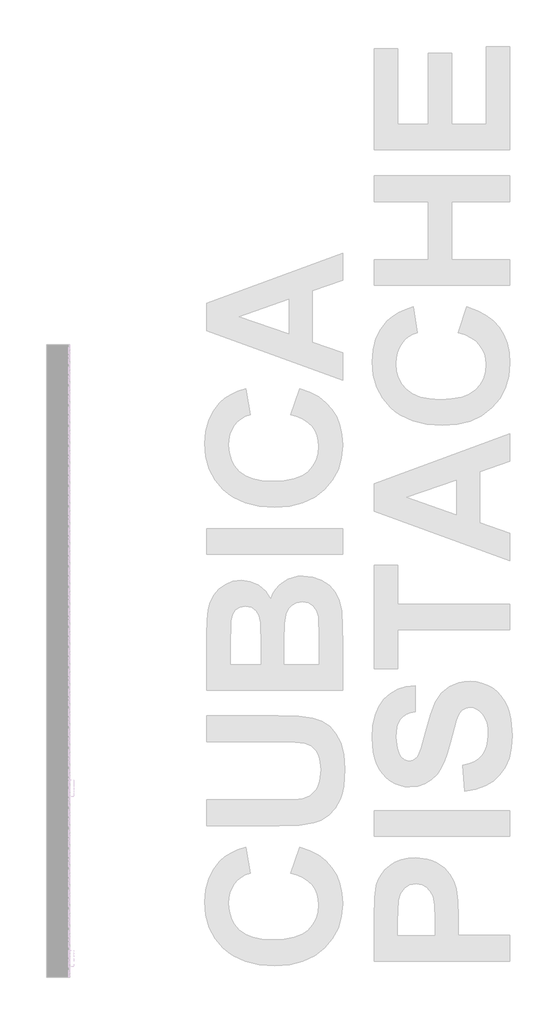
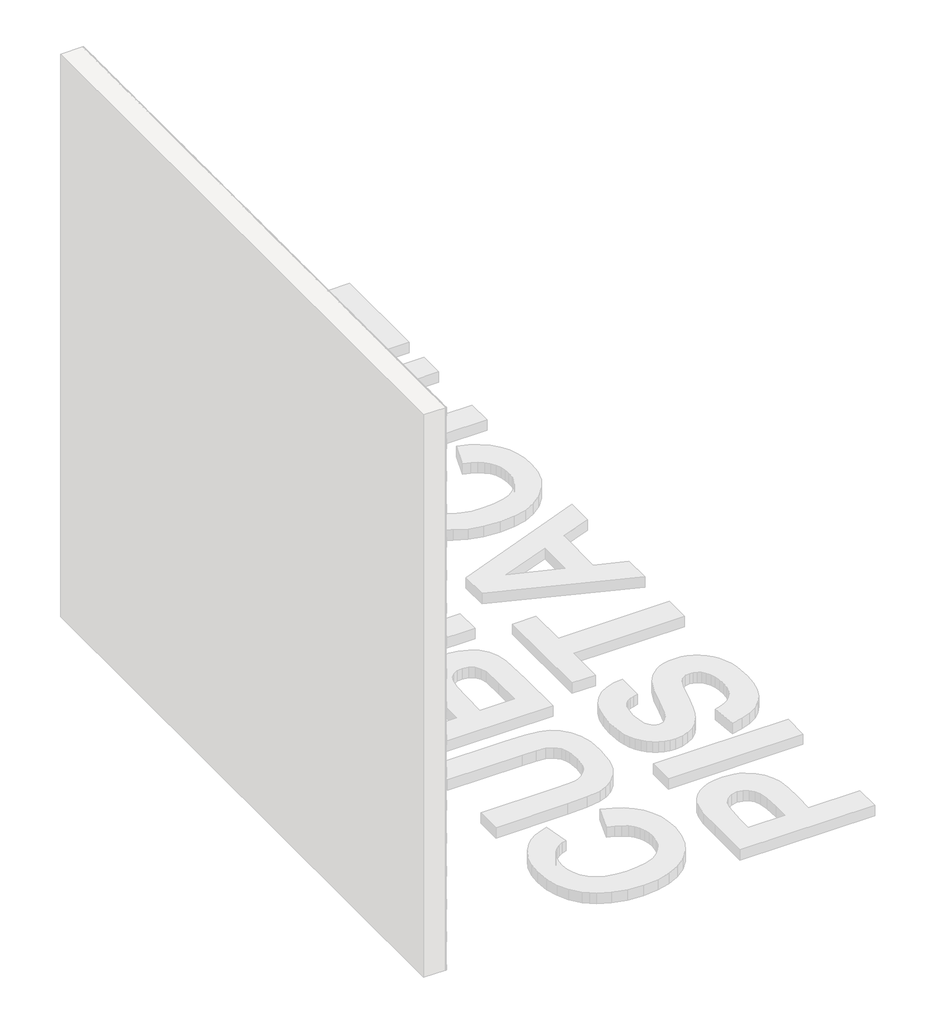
# One storey, part 86 of 121: 145 proxies.
"""IFC4 building model written with IfcOpenShell, lengths in millimetres."""

from ifc_helpers import new_model, si_unit, origin, place, context, project, spatial, transform, mapped, element, save
from components import generic_models_b2b2c5c1, generic_models_9bf73f6f, generic_models_5d175859

model = new_model("IFC4")

# Units and contexts
model_context = context("Model", 3, world=origin())
ifc_project = project(units=[si_unit("LENGTHUNIT", "METRE", prefix="MILLI")], contexts=[model_context])

# Site, building, storey
site = spatial("IfcSite", under=ifc_project)
building = spatial("IfcBuilding", under=site)
storey = spatial("IfcBuildingStorey", under=building, Name="PORTOBELLO - SHOWROOM", Elevation=0.0)

# Proxies
placement = place(None, origin())
generic_models_shape = generic_models_b2b2c5c1(model_context)
element("IfcBuildingElementProxy", 1, Name="PBSHOP - CUBICA PISTACHE 4,8X8,3 : CUBICA PISTACHE - POSIÇÃO 01", ObjectType="PBSHOP - CUBICA PISTACHE 4,8X8,3 : CUBICA PISTACHE - POSIÇÃO 01", at=placement, inside=storey, context=model_context, shape_type="MappedRepresentation", body=[
    mapped(generic_models_shape, transform((150369.5341846, 14022.8778804, 749.8339122), x_axis=(0.0, 1.0, 0.0), y_axis=(0.0, 0.0, 1.0), z_axis=(1.0, 0.0, 0.0))),
])
element("IfcBuildingElementProxy", 2, Name="PBSHOP - CUBICA PISTACHE 4,8X8,3 : CUBICA PISTACHE - POSIÇÃO 01", ObjectType="PBSHOP - CUBICA PISTACHE 4,8X8,3 : CUBICA PISTACHE - POSIÇÃO 01", at=placement, inside=storey, context=model_context, shape_type="MappedRepresentation", body=[
    mapped(generic_models_shape, transform((150369.5341846, 14113.7171496, 749.8339122), x_axis=(0.0, 1.0, 0.0), y_axis=(0.0, 0.0, 1.0), z_axis=(1.0, 0.0, 0.0))),
])
element("IfcBuildingElementProxy", 3, Name="PBSHOP - CUBICA PISTACHE 4,8X8,3 : CUBICA PISTACHE - POSIÇÃO 01", ObjectType="PBSHOP - CUBICA PISTACHE 4,8X8,3 : CUBICA PISTACHE - POSIÇÃO 01", at=placement, inside=storey, context=model_context, shape_type="MappedRepresentation", body=[
    mapped(generic_models_shape, transform((150369.5341846, 14204.5564189, 749.8339122), x_axis=(0.0, 1.0, 0.0), y_axis=(0.0, 0.0, 1.0), z_axis=(1.0, 0.0, 0.0))),
])
element("IfcBuildingElementProxy", 4, Name="PBSHOP - CUBICA PISTACHE 4,8X8,3 : CUBICA PISTACHE - POSIÇÃO 01", ObjectType="PBSHOP - CUBICA PISTACHE 4,8X8,3 : CUBICA PISTACHE - POSIÇÃO 01", at=placement, inside=storey, context=model_context, shape_type="MappedRepresentation", body=[
    mapped(generic_models_shape, transform((150369.5341846, 14295.3956881, 749.8339122), x_axis=(0.0, 1.0, 0.0), y_axis=(0.0, 0.0, 1.0), z_axis=(1.0, 0.0, 0.0))),
])
element("IfcBuildingElementProxy", 5, Name="PBSHOP - CUBICA PISTACHE 4,8X8,3 : CUBICA PISTACHE - POSIÇÃO 01", ObjectType="PBSHOP - CUBICA PISTACHE 4,8X8,3 : CUBICA PISTACHE - POSIÇÃO 01", at=placement, inside=storey, context=model_context, shape_type="MappedRepresentation", body=[
    mapped(generic_models_shape, transform((150369.5341846, 14386.2349573, 749.8339122), x_axis=(0.0, 1.0, 0.0), y_axis=(0.0, 0.0, 1.0), z_axis=(1.0, 0.0, 0.0))),
])
element("IfcBuildingElementProxy", 6, Name="PBSHOP - CUBICA PISTACHE 4,8X8,3 : CUBICA PISTACHE - POSIÇÃO 01", ObjectType="PBSHOP - CUBICA PISTACHE 4,8X8,3 : CUBICA PISTACHE - POSIÇÃO 01", at=placement, inside=storey, context=model_context, shape_type="MappedRepresentation", body=[
    mapped(generic_models_shape, transform((150369.5341846, 14477.0742266, 749.8339122), x_axis=(0.0, 1.0, 0.0), y_axis=(0.0, 0.0, 1.0), z_axis=(1.0, 0.0, 0.0))),
])
element("IfcBuildingElementProxy", 7, Name="PBSHOP - CUBICA PISTACHE 4,8X8,3 : CUBICA PISTACHE - POSIÇÃO 01", ObjectType="PBSHOP - CUBICA PISTACHE 4,8X8,3 : CUBICA PISTACHE - POSIÇÃO 01", at=placement, inside=storey, context=model_context, shape_type="MappedRepresentation", body=[
    mapped(generic_models_shape, transform((150369.5341846, 14567.9134958, 749.8339122), x_axis=(0.0, 1.0, 0.0), y_axis=(0.0, 0.0, 1.0), z_axis=(1.0, 0.0, 0.0))),
])
element("IfcBuildingElementProxy", 8, Name="PBSHOP - CUBICA PISTACHE 4,8X8,3 : CUBICA PISTACHE - POSIÇÃO 01", ObjectType="PBSHOP - CUBICA PISTACHE 4,8X8,3 : CUBICA PISTACHE - POSIÇÃO 01", at=placement, inside=storey, context=model_context, shape_type="MappedRepresentation", body=[
    mapped(generic_models_shape, transform((150369.5341846, 14658.7527651, 749.8339122), x_axis=(0.0, 1.0, 0.0), y_axis=(0.0, 0.0, 1.0), z_axis=(1.0, 0.0, 0.0))),
])
element("IfcBuildingElementProxy", 9, Name="PBSHOP - CUBICA PISTACHE 4,8X8,3 : CUBICA PISTACHE - POSIÇÃO 01", ObjectType="PBSHOP - CUBICA PISTACHE 4,8X8,3 : CUBICA PISTACHE - POSIÇÃO 01", at=placement, inside=storey, context=model_context, shape_type="MappedRepresentation", body=[
    mapped(generic_models_shape, transform((150369.5341846, 14749.5920343, 749.8339122), x_axis=(0.0, 1.0, 0.0), y_axis=(0.0, 0.0, 1.0), z_axis=(1.0, 0.0, 0.0))),
])
element("IfcBuildingElementProxy", 10, Name="PBSHOP - CUBICA PISTACHE 4,8X8,3 : CUBICA PISTACHE - POSIÇÃO 01", ObjectType="PBSHOP - CUBICA PISTACHE 4,8X8,3 : CUBICA PISTACHE - POSIÇÃO 01", at=placement, inside=storey, context=model_context, shape_type="MappedRepresentation", body=[
    mapped(generic_models_shape, transform((150369.5341846, 14840.4313036, 749.8339122), x_axis=(0.0, 1.0, 0.0), y_axis=(0.0, 0.0, 1.0), z_axis=(1.0, 0.0, 0.0))),
])
element("IfcBuildingElementProxy", 11, Name="PBSHOP - CUBICA PISTACHE 4,8X8,3 : CUBICA PISTACHE - POSIÇÃO 01", ObjectType="PBSHOP - CUBICA PISTACHE 4,8X8,3 : CUBICA PISTACHE - POSIÇÃO 01", at=placement, inside=storey, context=model_context, shape_type="MappedRepresentation", body=[
    mapped(generic_models_shape, transform((150369.5341846, 14931.2705728, 749.8339122), x_axis=(0.0, 1.0, 0.0), y_axis=(0.0, 0.0, 1.0), z_axis=(1.0, 0.0, 0.0))),
])
element("IfcBuildingElementProxy", 12, Name="PBSHOP - CUBICA PISTACHE 4,8X8,3 : CUBICA PISTACHE - POSIÇÃO 01", ObjectType="PBSHOP - CUBICA PISTACHE 4,8X8,3 : CUBICA PISTACHE - POSIÇÃO 01", at=placement, inside=storey, context=model_context, shape_type="MappedRepresentation", body=[
    mapped(generic_models_shape, transform((150369.5341846, 14068.297515, 828.7685506), x_axis=(0.0, 1.0, 0.0), y_axis=(0.0, 0.0, 1.0), z_axis=(1.0, 0.0, 0.0))),
])
element("IfcBuildingElementProxy", 13, Name="PBSHOP - CUBICA PISTACHE 4,8X8,3 : CUBICA PISTACHE - POSIÇÃO 01", ObjectType="PBSHOP - CUBICA PISTACHE 4,8X8,3 : CUBICA PISTACHE - POSIÇÃO 01", at=placement, inside=storey, context=model_context, shape_type="MappedRepresentation", body=[
    mapped(generic_models_shape, transform((150369.5341846, 14159.1367842, 828.7685506), x_axis=(0.0, 1.0, 0.0), y_axis=(0.0, 0.0, 1.0), z_axis=(1.0, 0.0, 0.0))),
])
element("IfcBuildingElementProxy", 14, Name="PBSHOP - CUBICA PISTACHE 4,8X8,3 : CUBICA PISTACHE - POSIÇÃO 01", ObjectType="PBSHOP - CUBICA PISTACHE 4,8X8,3 : CUBICA PISTACHE - POSIÇÃO 01", at=placement, inside=storey, context=model_context, shape_type="MappedRepresentation", body=[
    mapped(generic_models_shape, transform((150369.5341846, 14249.9760535, 828.7685506), x_axis=(0.0, 1.0, 0.0), y_axis=(0.0, 0.0, 1.0), z_axis=(1.0, 0.0, 0.0))),
])
element("IfcBuildingElementProxy", 15, Name="PBSHOP - CUBICA PISTACHE 4,8X8,3 : CUBICA PISTACHE - POSIÇÃO 01", ObjectType="PBSHOP - CUBICA PISTACHE 4,8X8,3 : CUBICA PISTACHE - POSIÇÃO 01", at=placement, inside=storey, context=model_context, shape_type="MappedRepresentation", body=[
    mapped(generic_models_shape, transform((150369.5341846, 14340.8153227, 828.7685506), x_axis=(0.0, 1.0, 0.0), y_axis=(0.0, 0.0, 1.0), z_axis=(1.0, 0.0, 0.0))),
])
element("IfcBuildingElementProxy", 16, Name="PBSHOP - CUBICA PISTACHE 4,8X8,3 : CUBICA PISTACHE - POSIÇÃO 01", ObjectType="PBSHOP - CUBICA PISTACHE 4,8X8,3 : CUBICA PISTACHE - POSIÇÃO 01", at=placement, inside=storey, context=model_context, shape_type="MappedRepresentation", body=[
    mapped(generic_models_shape, transform((150369.5341846, 14431.654592, 828.7685506), x_axis=(0.0, 1.0, 0.0), y_axis=(0.0, 0.0, 1.0), z_axis=(1.0, 0.0, 0.0))),
])
element("IfcBuildingElementProxy", 17, Name="PBSHOP - CUBICA PISTACHE 4,8X8,3 : CUBICA PISTACHE - POSIÇÃO 01", ObjectType="PBSHOP - CUBICA PISTACHE 4,8X8,3 : CUBICA PISTACHE - POSIÇÃO 01", at=placement, inside=storey, context=model_context, shape_type="MappedRepresentation", body=[
    mapped(generic_models_shape, transform((150369.5341846, 14522.4938612, 828.7685506), x_axis=(0.0, 1.0, 0.0), y_axis=(0.0, 0.0, 1.0), z_axis=(1.0, 0.0, 0.0))),
])
element("IfcBuildingElementProxy", 18, Name="PBSHOP - CUBICA PISTACHE 4,8X8,3 : CUBICA PISTACHE - POSIÇÃO 01", ObjectType="PBSHOP - CUBICA PISTACHE 4,8X8,3 : CUBICA PISTACHE - POSIÇÃO 01", at=placement, inside=storey, context=model_context, shape_type="MappedRepresentation", body=[
    mapped(generic_models_shape, transform((150369.5341846, 14613.3331304, 828.7685506), x_axis=(0.0, 1.0, 0.0), y_axis=(0.0, 0.0, 1.0), z_axis=(1.0, 0.0, 0.0))),
])
element("IfcBuildingElementProxy", 19, Name="PBSHOP - CUBICA PISTACHE 4,8X8,3 : CUBICA PISTACHE - POSIÇÃO 01", ObjectType="PBSHOP - CUBICA PISTACHE 4,8X8,3 : CUBICA PISTACHE - POSIÇÃO 01", at=placement, inside=storey, context=model_context, shape_type="MappedRepresentation", body=[
    mapped(generic_models_shape, transform((150369.5341846, 14704.1723997, 828.7685506), x_axis=(0.0, 1.0, 0.0), y_axis=(0.0, 0.0, 1.0), z_axis=(1.0, 0.0, 0.0))),
])
element("IfcBuildingElementProxy", 20, Name="PBSHOP - CUBICA PISTACHE 4,8X8,3 : CUBICA PISTACHE - POSIÇÃO 01", ObjectType="PBSHOP - CUBICA PISTACHE 4,8X8,3 : CUBICA PISTACHE - POSIÇÃO 01", at=placement, inside=storey, context=model_context, shape_type="MappedRepresentation", body=[
    mapped(generic_models_shape, transform((150369.5341846, 14795.0116689, 828.7685506), x_axis=(0.0, 1.0, 0.0), y_axis=(0.0, 0.0, 1.0), z_axis=(1.0, 0.0, 0.0))),
])
element("IfcBuildingElementProxy", 21, Name="PBSHOP - CUBICA PISTACHE 4,8X8,3 : CUBICA PISTACHE - POSIÇÃO 01", ObjectType="PBSHOP - CUBICA PISTACHE 4,8X8,3 : CUBICA PISTACHE - POSIÇÃO 01", at=placement, inside=storey, context=model_context, shape_type="MappedRepresentation", body=[
    mapped(generic_models_shape, transform((150369.5341846, 14885.8509382, 828.7685506), x_axis=(0.0, 1.0, 0.0), y_axis=(0.0, 0.0, 1.0), z_axis=(1.0, 0.0, 0.0))),
])
element("IfcBuildingElementProxy", 22, Name="PBSHOP - CUBICA PISTACHE 4,8X8,3 : CUBICA PISTACHE - POSIÇÃO 01", ObjectType="PBSHOP - CUBICA PISTACHE 4,8X8,3 : CUBICA PISTACHE - POSIÇÃO 01", at=placement, inside=storey, context=model_context, shape_type="MappedRepresentation", body=[
    mapped(generic_models_shape, transform((150369.5341846, 14976.6902074, 828.7685506), x_axis=(0.0, 1.0, 0.0), y_axis=(0.0, 0.0, 1.0), z_axis=(1.0, 0.0, 0.0))),
])
element("IfcBuildingElementProxy", 23, Name="PBSHOP - CUBICA PISTACHE 4,8X8,3 : CUBICA PISTACHE - POSIÇÃO 01", ObjectType="PBSHOP - CUBICA PISTACHE 4,8X8,3 : CUBICA PISTACHE - POSIÇÃO 01", at=placement, inside=storey, context=model_context, shape_type="MappedRepresentation", body=[
    mapped(generic_models_shape, transform((150369.5341846, 14022.8778804, 907.7031889), x_axis=(0.0, 1.0, 0.0), y_axis=(0.0, 0.0, 1.0), z_axis=(1.0, 0.0, 0.0))),
])
element("IfcBuildingElementProxy", 24, Name="PBSHOP - CUBICA PISTACHE 4,8X8,3 : CUBICA PISTACHE - POSIÇÃO 01", ObjectType="PBSHOP - CUBICA PISTACHE 4,8X8,3 : CUBICA PISTACHE - POSIÇÃO 01", at=placement, inside=storey, context=model_context, shape_type="MappedRepresentation", body=[
    mapped(generic_models_shape, transform((150369.5341846, 14113.7171496, 907.7031889), x_axis=(0.0, 1.0, 0.0), y_axis=(0.0, 0.0, 1.0), z_axis=(1.0, 0.0, 0.0))),
])
element("IfcBuildingElementProxy", 25, Name="PBSHOP - CUBICA PISTACHE 4,8X8,3 : CUBICA PISTACHE - POSIÇÃO 01", ObjectType="PBSHOP - CUBICA PISTACHE 4,8X8,3 : CUBICA PISTACHE - POSIÇÃO 01", at=placement, inside=storey, context=model_context, shape_type="MappedRepresentation", body=[
    mapped(generic_models_shape, transform((150369.5341846, 14204.5564189, 907.7031889), x_axis=(0.0, 1.0, 0.0), y_axis=(0.0, 0.0, 1.0), z_axis=(1.0, 0.0, 0.0))),
])
element("IfcBuildingElementProxy", 26, Name="PBSHOP - CUBICA PISTACHE 4,8X8,3 : CUBICA PISTACHE - POSIÇÃO 01", ObjectType="PBSHOP - CUBICA PISTACHE 4,8X8,3 : CUBICA PISTACHE - POSIÇÃO 01", at=placement, inside=storey, context=model_context, shape_type="MappedRepresentation", body=[
    mapped(generic_models_shape, transform((150369.5341846, 14295.3956881, 907.7031889), x_axis=(0.0, 1.0, 0.0), y_axis=(0.0, 0.0, 1.0), z_axis=(1.0, 0.0, 0.0))),
])
element("IfcBuildingElementProxy", 27, Name="PBSHOP - CUBICA PISTACHE 4,8X8,3 : CUBICA PISTACHE - POSIÇÃO 01", ObjectType="PBSHOP - CUBICA PISTACHE 4,8X8,3 : CUBICA PISTACHE - POSIÇÃO 01", at=placement, inside=storey, context=model_context, shape_type="MappedRepresentation", body=[
    mapped(generic_models_shape, transform((150369.5341846, 14386.2349573, 907.7031889), x_axis=(0.0, 1.0, 0.0), y_axis=(0.0, 0.0, 1.0), z_axis=(1.0, 0.0, 0.0))),
])
element("IfcBuildingElementProxy", 28, Name="PBSHOP - CUBICA PISTACHE 4,8X8,3 : CUBICA PISTACHE - POSIÇÃO 01", ObjectType="PBSHOP - CUBICA PISTACHE 4,8X8,3 : CUBICA PISTACHE - POSIÇÃO 01", at=placement, inside=storey, context=model_context, shape_type="MappedRepresentation", body=[
    mapped(generic_models_shape, transform((150369.5341846, 14477.0742266, 907.7031889), x_axis=(0.0, 1.0, 0.0), y_axis=(0.0, 0.0, 1.0), z_axis=(1.0, 0.0, 0.0))),
])
element("IfcBuildingElementProxy", 29, Name="PBSHOP - CUBICA PISTACHE 4,8X8,3 : CUBICA PISTACHE - POSIÇÃO 01", ObjectType="PBSHOP - CUBICA PISTACHE 4,8X8,3 : CUBICA PISTACHE - POSIÇÃO 01", at=placement, inside=storey, context=model_context, shape_type="MappedRepresentation", body=[
    mapped(generic_models_shape, transform((150369.5341846, 14567.9134958, 907.7031889), x_axis=(0.0, 1.0, 0.0), y_axis=(0.0, 0.0, 1.0), z_axis=(1.0, 0.0, 0.0))),
])
element("IfcBuildingElementProxy", 30, Name="PBSHOP - CUBICA PISTACHE 4,8X8,3 : CUBICA PISTACHE - POSIÇÃO 01", ObjectType="PBSHOP - CUBICA PISTACHE 4,8X8,3 : CUBICA PISTACHE - POSIÇÃO 01", at=placement, inside=storey, context=model_context, shape_type="MappedRepresentation", body=[
    mapped(generic_models_shape, transform((150369.5341846, 14658.7527651, 907.7031889), x_axis=(0.0, 1.0, 0.0), y_axis=(0.0, 0.0, 1.0), z_axis=(1.0, 0.0, 0.0))),
])
element("IfcBuildingElementProxy", 31, Name="PBSHOP - CUBICA PISTACHE 4,8X8,3 : CUBICA PISTACHE - POSIÇÃO 01", ObjectType="PBSHOP - CUBICA PISTACHE 4,8X8,3 : CUBICA PISTACHE - POSIÇÃO 01", at=placement, inside=storey, context=model_context, shape_type="MappedRepresentation", body=[
    mapped(generic_models_shape, transform((150369.5341846, 14749.5920343, 907.7031889), x_axis=(0.0, 1.0, 0.0), y_axis=(0.0, 0.0, 1.0), z_axis=(1.0, 0.0, 0.0))),
])
element("IfcBuildingElementProxy", 32, Name="PBSHOP - CUBICA PISTACHE 4,8X8,3 : CUBICA PISTACHE - POSIÇÃO 01", ObjectType="PBSHOP - CUBICA PISTACHE 4,8X8,3 : CUBICA PISTACHE - POSIÇÃO 01", at=placement, inside=storey, context=model_context, shape_type="MappedRepresentation", body=[
    mapped(generic_models_shape, transform((150369.5341846, 14840.4313036, 907.7031889), x_axis=(0.0, 1.0, 0.0), y_axis=(0.0, 0.0, 1.0), z_axis=(1.0, 0.0, 0.0))),
])
element("IfcBuildingElementProxy", 33, Name="PBSHOP - CUBICA PISTACHE 4,8X8,3 : CUBICA PISTACHE - POSIÇÃO 01", ObjectType="PBSHOP - CUBICA PISTACHE 4,8X8,3 : CUBICA PISTACHE - POSIÇÃO 01", at=placement, inside=storey, context=model_context, shape_type="MappedRepresentation", body=[
    mapped(generic_models_shape, transform((150369.5341846, 14931.2705728, 907.7031889), x_axis=(0.0, 1.0, 0.0), y_axis=(0.0, 0.0, 1.0), z_axis=(1.0, 0.0, 0.0))),
])
element("IfcBuildingElementProxy", 34, Name="PBSHOP - CUBICA PISTACHE 4,8X8,3 : CUBICA PISTACHE - POSIÇÃO 01", ObjectType="PBSHOP - CUBICA PISTACHE 4,8X8,3 : CUBICA PISTACHE - POSIÇÃO 01", at=placement, inside=storey, context=model_context, shape_type="MappedRepresentation", body=[
    mapped(generic_models_shape, transform((150369.5341846, 14068.297515, 986.6378273), x_axis=(0.0, 1.0, 0.0), y_axis=(0.0, 0.0, 1.0), z_axis=(1.0, 0.0, 0.0))),
])
element("IfcBuildingElementProxy", 35, Name="PBSHOP - CUBICA PISTACHE 4,8X8,3 : CUBICA PISTACHE - POSIÇÃO 01", ObjectType="PBSHOP - CUBICA PISTACHE 4,8X8,3 : CUBICA PISTACHE - POSIÇÃO 01", at=placement, inside=storey, context=model_context, shape_type="MappedRepresentation", body=[
    mapped(generic_models_shape, transform((150369.5341846, 14159.1367842, 986.6378273), x_axis=(0.0, 1.0, 0.0), y_axis=(0.0, 0.0, 1.0), z_axis=(1.0, 0.0, 0.0))),
])
element("IfcBuildingElementProxy", 36, Name="PBSHOP - CUBICA PISTACHE 4,8X8,3 : CUBICA PISTACHE - POSIÇÃO 01", ObjectType="PBSHOP - CUBICA PISTACHE 4,8X8,3 : CUBICA PISTACHE - POSIÇÃO 01", at=placement, inside=storey, context=model_context, shape_type="MappedRepresentation", body=[
    mapped(generic_models_shape, transform((150369.5341846, 14249.9760535, 986.6378273), x_axis=(0.0, 1.0, 0.0), y_axis=(0.0, 0.0, 1.0), z_axis=(1.0, 0.0, 0.0))),
])
element("IfcBuildingElementProxy", 37, Name="PBSHOP - CUBICA PISTACHE 4,8X8,3 : CUBICA PISTACHE - POSIÇÃO 01", ObjectType="PBSHOP - CUBICA PISTACHE 4,8X8,3 : CUBICA PISTACHE - POSIÇÃO 01", at=placement, inside=storey, context=model_context, shape_type="MappedRepresentation", body=[
    mapped(generic_models_shape, transform((150369.5341846, 14340.8153227, 986.6378273), x_axis=(0.0, 1.0, 0.0), y_axis=(0.0, 0.0, 1.0), z_axis=(1.0, 0.0, 0.0))),
])
element("IfcBuildingElementProxy", 38, Name="PBSHOP - CUBICA PISTACHE 4,8X8,3 : CUBICA PISTACHE - POSIÇÃO 01", ObjectType="PBSHOP - CUBICA PISTACHE 4,8X8,3 : CUBICA PISTACHE - POSIÇÃO 01", at=placement, inside=storey, context=model_context, shape_type="MappedRepresentation", body=[
    mapped(generic_models_shape, transform((150369.5341846, 14431.654592, 986.6378273), x_axis=(0.0, 1.0, 0.0), y_axis=(0.0, 0.0, 1.0), z_axis=(1.0, 0.0, 0.0))),
])
element("IfcBuildingElementProxy", 39, Name="PBSHOP - CUBICA PISTACHE 4,8X8,3 : CUBICA PISTACHE - POSIÇÃO 01", ObjectType="PBSHOP - CUBICA PISTACHE 4,8X8,3 : CUBICA PISTACHE - POSIÇÃO 01", at=placement, inside=storey, context=model_context, shape_type="MappedRepresentation", body=[
    mapped(generic_models_shape, transform((150369.5341846, 14522.4938612, 986.6378273), x_axis=(0.0, 1.0, 0.0), y_axis=(0.0, 0.0, 1.0), z_axis=(1.0, 0.0, 0.0))),
])
element("IfcBuildingElementProxy", 40, Name="PBSHOP - CUBICA PISTACHE 4,8X8,3 : CUBICA PISTACHE - POSIÇÃO 01", ObjectType="PBSHOP - CUBICA PISTACHE 4,8X8,3 : CUBICA PISTACHE - POSIÇÃO 01", at=placement, inside=storey, context=model_context, shape_type="MappedRepresentation", body=[
    mapped(generic_models_shape, transform((150369.5341846, 14613.3331304, 986.6378273), x_axis=(0.0, 1.0, 0.0), y_axis=(0.0, 0.0, 1.0), z_axis=(1.0, 0.0, 0.0))),
])
element("IfcBuildingElementProxy", 41, Name="PBSHOP - CUBICA PISTACHE 4,8X8,3 : CUBICA PISTACHE - POSIÇÃO 01", ObjectType="PBSHOP - CUBICA PISTACHE 4,8X8,3 : CUBICA PISTACHE - POSIÇÃO 01", at=placement, inside=storey, context=model_context, shape_type="MappedRepresentation", body=[
    mapped(generic_models_shape, transform((150369.5341846, 14704.1723997, 986.6378273), x_axis=(0.0, 1.0, 0.0), y_axis=(0.0, 0.0, 1.0), z_axis=(1.0, 0.0, 0.0))),
])
element("IfcBuildingElementProxy", 42, Name="PBSHOP - CUBICA PISTACHE 4,8X8,3 : CUBICA PISTACHE - POSIÇÃO 01", ObjectType="PBSHOP - CUBICA PISTACHE 4,8X8,3 : CUBICA PISTACHE - POSIÇÃO 01", at=placement, inside=storey, context=model_context, shape_type="MappedRepresentation", body=[
    mapped(generic_models_shape, transform((150369.5341846, 14795.0116689, 986.6378273), x_axis=(0.0, 1.0, 0.0), y_axis=(0.0, 0.0, 1.0), z_axis=(1.0, 0.0, 0.0))),
])
element("IfcBuildingElementProxy", 43, Name="PBSHOP - CUBICA PISTACHE 4,8X8,3 : CUBICA PISTACHE - POSIÇÃO 01", ObjectType="PBSHOP - CUBICA PISTACHE 4,8X8,3 : CUBICA PISTACHE - POSIÇÃO 01", at=placement, inside=storey, context=model_context, shape_type="MappedRepresentation", body=[
    mapped(generic_models_shape, transform((150369.5341846, 14885.8509382, 986.6378273), x_axis=(0.0, 1.0, 0.0), y_axis=(0.0, 0.0, 1.0), z_axis=(1.0, 0.0, 0.0))),
])
element("IfcBuildingElementProxy", 44, Name="PBSHOP - CUBICA PISTACHE 4,8X8,3 : CUBICA PISTACHE - POSIÇÃO 01", ObjectType="PBSHOP - CUBICA PISTACHE 4,8X8,3 : CUBICA PISTACHE - POSIÇÃO 01", at=placement, inside=storey, context=model_context, shape_type="MappedRepresentation", body=[
    mapped(generic_models_shape, transform((150369.5341846, 14976.6902074, 986.6378273), x_axis=(0.0, 1.0, 0.0), y_axis=(0.0, 0.0, 1.0), z_axis=(1.0, 0.0, 0.0))),
])
element("IfcBuildingElementProxy", 45, Name="PBSHOP - CUBICA PISTACHE 4,8X8,3 : CUBICA PISTACHE - POSIÇÃO 01", ObjectType="PBSHOP - CUBICA PISTACHE 4,8X8,3 : CUBICA PISTACHE - POSIÇÃO 01", at=placement, inside=storey, context=model_context, shape_type="MappedRepresentation", body=[
    mapped(generic_models_shape, transform((150369.5341846, 14022.8778804, 1065.5724657), x_axis=(0.0, 1.0, 0.0), y_axis=(0.0, 0.0, 1.0), z_axis=(1.0, 0.0, 0.0))),
])
element("IfcBuildingElementProxy", 46, Name="PBSHOP - CUBICA PISTACHE 4,8X8,3 : CUBICA PISTACHE - POSIÇÃO 01", ObjectType="PBSHOP - CUBICA PISTACHE 4,8X8,3 : CUBICA PISTACHE - POSIÇÃO 01", at=placement, inside=storey, context=model_context, shape_type="MappedRepresentation", body=[
    mapped(generic_models_shape, transform((150369.5341846, 14113.7171496, 1065.5724657), x_axis=(0.0, 1.0, 0.0), y_axis=(0.0, 0.0, 1.0), z_axis=(1.0, 0.0, 0.0))),
])
element("IfcBuildingElementProxy", 47, Name="PBSHOP - CUBICA PISTACHE 4,8X8,3 : CUBICA PISTACHE - POSIÇÃO 01", ObjectType="PBSHOP - CUBICA PISTACHE 4,8X8,3 : CUBICA PISTACHE - POSIÇÃO 01", at=placement, inside=storey, context=model_context, shape_type="MappedRepresentation", body=[
    mapped(generic_models_shape, transform((150369.5341846, 14204.5564189, 1065.5724657), x_axis=(0.0, 1.0, 0.0), y_axis=(0.0, 0.0, 1.0), z_axis=(1.0, 0.0, 0.0))),
])
generic_models_2_shape = generic_models_9bf73f6f(model_context)
element("IfcBuildingElementProxy", 48, Name="PBSHOP - CUBICA PISTACHE 4,8X8,3 : CUBICA PISTACHE - POSIÇÃO 03", ObjectType="PBSHOP - CUBICA PISTACHE 4,8X8,3 : CUBICA PISTACHE - POSIÇÃO 03", at=placement, inside=storey, context=model_context, shape_type="MappedRepresentation", body=[
    mapped(generic_models_2_shape, transform((150369.5341846, 14499.7862031, 631.3907442), x_axis=(0.0, 1.0, 0.0), y_axis=(0.0, 0.0, 1.0), z_axis=(1.0, 0.0, 0.0))),
])
element("IfcBuildingElementProxy", 49, Name="PBSHOP - CUBICA PISTACHE 4,8X8,3 : CUBICA PISTACHE - POSIÇÃO 03", ObjectType="PBSHOP - CUBICA PISTACHE 4,8X8,3 : CUBICA PISTACHE - POSIÇÃO 03", at=placement, inside=storey, context=model_context, shape_type="MappedRepresentation", body=[
    mapped(generic_models_2_shape, transform((150369.5341846, 14590.6254723, 631.3907442), x_axis=(0.0, 1.0, 0.0), y_axis=(0.0, 0.0, 1.0), z_axis=(1.0, 0.0, 0.0))),
])
element("IfcBuildingElementProxy", 50, Name="PBSHOP - CUBICA PISTACHE 4,8X8,3 : CUBICA PISTACHE - POSIÇÃO 03", ObjectType="PBSHOP - CUBICA PISTACHE 4,8X8,3 : CUBICA PISTACHE - POSIÇÃO 03", at=placement, inside=storey, context=model_context, shape_type="MappedRepresentation", body=[
    mapped(generic_models_2_shape, transform((150369.5341846, 14681.4647415, 631.3907442), x_axis=(0.0, 1.0, 0.0), y_axis=(0.0, 0.0, 1.0), z_axis=(1.0, 0.0, 0.0))),
])
element("IfcBuildingElementProxy", 51, Name="PBSHOP - CUBICA PISTACHE 4,8X8,3 : CUBICA PISTACHE - POSIÇÃO 03", ObjectType="PBSHOP - CUBICA PISTACHE 4,8X8,3 : CUBICA PISTACHE - POSIÇÃO 03", at=placement, inside=storey, context=model_context, shape_type="MappedRepresentation", body=[
    mapped(generic_models_2_shape, transform((150369.5341846, 14772.3040108, 631.3907442), x_axis=(0.0, 1.0, 0.0), y_axis=(0.0, 0.0, 1.0), z_axis=(1.0, 0.0, 0.0))),
])
element("IfcBuildingElementProxy", 52, Name="PBSHOP - CUBICA PISTACHE 4,8X8,3 : CUBICA PISTACHE - POSIÇÃO 03", ObjectType="PBSHOP - CUBICA PISTACHE 4,8X8,3 : CUBICA PISTACHE - POSIÇÃO 03", at=placement, inside=storey, context=model_context, shape_type="MappedRepresentation", body=[
    mapped(generic_models_2_shape, transform((150369.5341846, 14863.14328, 631.3907442), x_axis=(0.0, 1.0, 0.0), y_axis=(0.0, 0.0, 1.0), z_axis=(1.0, 0.0, 0.0))),
])
element("IfcBuildingElementProxy", 53, Name="PBSHOP - CUBICA PISTACHE 4,8X8,3 : CUBICA PISTACHE - POSIÇÃO 03", ObjectType="PBSHOP - CUBICA PISTACHE 4,8X8,3 : CUBICA PISTACHE - POSIÇÃO 03", at=placement, inside=storey, context=model_context, shape_type="MappedRepresentation", body=[
    mapped(generic_models_2_shape, transform((150369.5341846, 14953.9825493, 631.3907442), x_axis=(0.0, 1.0, 0.0), y_axis=(0.0, 0.0, 1.0), z_axis=(1.0, 0.0, 0.0))),
])
element("IfcBuildingElementProxy", 54, Name="PBSHOP - CUBICA PISTACHE 4,8X8,3 : CUBICA PISTACHE - POSIÇÃO 03", ObjectType="PBSHOP - CUBICA PISTACHE 4,8X8,3 : CUBICA PISTACHE - POSIÇÃO 03", at=placement, inside=storey, context=model_context, shape_type="MappedRepresentation", body=[
    mapped(generic_models_2_shape, transform((150369.5341846, 14000.1702222, 710.3253826), x_axis=(0.0, 1.0, 0.0), y_axis=(0.0, 0.0, 1.0), z_axis=(1.0, 0.0, 0.0))),
])
element("IfcBuildingElementProxy", 55, Name="PBSHOP - CUBICA PISTACHE 4,8X8,3 : CUBICA PISTACHE - POSIÇÃO 03", ObjectType="PBSHOP - CUBICA PISTACHE 4,8X8,3 : CUBICA PISTACHE - POSIÇÃO 03", at=placement, inside=storey, context=model_context, shape_type="MappedRepresentation", body=[
    mapped(generic_models_2_shape, transform((150369.5341846, 14091.0094915, 710.3253826), x_axis=(0.0, 1.0, 0.0), y_axis=(0.0, 0.0, 1.0), z_axis=(1.0, 0.0, 0.0))),
])
element("IfcBuildingElementProxy", 56, Name="PBSHOP - CUBICA PISTACHE 4,8X8,3 : CUBICA PISTACHE - POSIÇÃO 03", ObjectType="PBSHOP - CUBICA PISTACHE 4,8X8,3 : CUBICA PISTACHE - POSIÇÃO 03", at=placement, inside=storey, context=model_context, shape_type="MappedRepresentation", body=[
    mapped(generic_models_2_shape, transform((150369.5341846, 14181.8487607, 710.3253826), x_axis=(0.0, 1.0, 0.0), y_axis=(0.0, 0.0, 1.0), z_axis=(1.0, 0.0, 0.0))),
])
element("IfcBuildingElementProxy", 57, Name="PBSHOP - CUBICA PISTACHE 4,8X8,3 : CUBICA PISTACHE - POSIÇÃO 03", ObjectType="PBSHOP - CUBICA PISTACHE 4,8X8,3 : CUBICA PISTACHE - POSIÇÃO 03", at=placement, inside=storey, context=model_context, shape_type="MappedRepresentation", body=[
    mapped(generic_models_2_shape, transform((150369.5341846, 14272.6880299, 710.3253826), x_axis=(0.0, 1.0, 0.0), y_axis=(0.0, 0.0, 1.0), z_axis=(1.0, 0.0, 0.0))),
])
element("IfcBuildingElementProxy", 58, Name="PBSHOP - CUBICA PISTACHE 4,8X8,3 : CUBICA PISTACHE - POSIÇÃO 03", ObjectType="PBSHOP - CUBICA PISTACHE 4,8X8,3 : CUBICA PISTACHE - POSIÇÃO 03", at=placement, inside=storey, context=model_context, shape_type="MappedRepresentation", body=[
    mapped(generic_models_2_shape, transform((150369.5341846, 14363.5272992, 710.3253826), x_axis=(0.0, 1.0, 0.0), y_axis=(0.0, 0.0, 1.0), z_axis=(1.0, 0.0, 0.0))),
])
element("IfcBuildingElementProxy", 59, Name="PBSHOP - CUBICA PISTACHE 4,8X8,3 : CUBICA PISTACHE - POSIÇÃO 03", ObjectType="PBSHOP - CUBICA PISTACHE 4,8X8,3 : CUBICA PISTACHE - POSIÇÃO 03", at=placement, inside=storey, context=model_context, shape_type="MappedRepresentation", body=[
    mapped(generic_models_2_shape, transform((150369.5341846, 14454.3665684, 710.3253826), x_axis=(0.0, 1.0, 0.0), y_axis=(0.0, 0.0, 1.0), z_axis=(1.0, 0.0, 0.0))),
])
element("IfcBuildingElementProxy", 60, Name="PBSHOP - CUBICA PISTACHE 4,8X8,3 : CUBICA PISTACHE - POSIÇÃO 03", ObjectType="PBSHOP - CUBICA PISTACHE 4,8X8,3 : CUBICA PISTACHE - POSIÇÃO 03", at=placement, inside=storey, context=model_context, shape_type="MappedRepresentation", body=[
    mapped(generic_models_2_shape, transform((150369.5341846, 14545.2058377, 710.3253826), x_axis=(0.0, 1.0, 0.0), y_axis=(0.0, 0.0, 1.0), z_axis=(1.0, 0.0, 0.0))),
])
element("IfcBuildingElementProxy", 61, Name="PBSHOP - CUBICA PISTACHE 4,8X8,3 : CUBICA PISTACHE - POSIÇÃO 03", ObjectType="PBSHOP - CUBICA PISTACHE 4,8X8,3 : CUBICA PISTACHE - POSIÇÃO 03", at=placement, inside=storey, context=model_context, shape_type="MappedRepresentation", body=[
    mapped(generic_models_2_shape, transform((150369.5341846, 14636.0451069, 710.3253826), x_axis=(0.0, 1.0, 0.0), y_axis=(0.0, 0.0, 1.0), z_axis=(1.0, 0.0, 0.0))),
])
element("IfcBuildingElementProxy", 62, Name="PBSHOP - CUBICA PISTACHE 4,8X8,3 : CUBICA PISTACHE - POSIÇÃO 03", ObjectType="PBSHOP - CUBICA PISTACHE 4,8X8,3 : CUBICA PISTACHE - POSIÇÃO 03", at=placement, inside=storey, context=model_context, shape_type="MappedRepresentation", body=[
    mapped(generic_models_2_shape, transform((150369.5341846, 14726.8843762, 710.3253826), x_axis=(0.0, 1.0, 0.0), y_axis=(0.0, 0.0, 1.0), z_axis=(1.0, 0.0, 0.0))),
])
element("IfcBuildingElementProxy", 63, Name="PBSHOP - CUBICA PISTACHE 4,8X8,3 : CUBICA PISTACHE - POSIÇÃO 03", ObjectType="PBSHOP - CUBICA PISTACHE 4,8X8,3 : CUBICA PISTACHE - POSIÇÃO 03", at=placement, inside=storey, context=model_context, shape_type="MappedRepresentation", body=[
    mapped(generic_models_2_shape, transform((150369.5341846, 14817.7236454, 710.3253826), x_axis=(0.0, 1.0, 0.0), y_axis=(0.0, 0.0, 1.0), z_axis=(1.0, 0.0, 0.0))),
])
element("IfcBuildingElementProxy", 64, Name="PBSHOP - CUBICA PISTACHE 4,8X8,3 : CUBICA PISTACHE - POSIÇÃO 03", ObjectType="PBSHOP - CUBICA PISTACHE 4,8X8,3 : CUBICA PISTACHE - POSIÇÃO 03", at=placement, inside=storey, context=model_context, shape_type="MappedRepresentation", body=[
    mapped(generic_models_2_shape, transform((150369.5341846, 14908.5629147, 710.3253826), x_axis=(0.0, 1.0, 0.0), y_axis=(0.0, 0.0, 1.0), z_axis=(1.0, 0.0, 0.0))),
])
element("IfcBuildingElementProxy", 65, Name="PBSHOP - CUBICA PISTACHE 4,8X8,3 : CUBICA PISTACHE - POSIÇÃO 03", ObjectType="PBSHOP - CUBICA PISTACHE 4,8X8,3 : CUBICA PISTACHE - POSIÇÃO 03", at=placement, inside=storey, context=model_context, shape_type="MappedRepresentation", body=[
    mapped(generic_models_2_shape, transform((150369.5341846, 14999.4021839, 710.3253826), x_axis=(0.0, 1.0, 0.0), y_axis=(0.0, 0.0, 1.0), z_axis=(1.0, 0.0, 0.0))),
])
element("IfcBuildingElementProxy", 66, Name="PBSHOP - CUBICA PISTACHE 4,8X8,3 : CUBICA PISTACHE - POSIÇÃO 03", ObjectType="PBSHOP - CUBICA PISTACHE 4,8X8,3 : CUBICA PISTACHE - POSIÇÃO 03", at=placement, inside=storey, context=model_context, shape_type="MappedRepresentation", body=[
    mapped(generic_models_2_shape, transform((150369.5341846, 14045.5898568, 789.2600209), x_axis=(0.0, 1.0, 0.0), y_axis=(0.0, 0.0, 1.0), z_axis=(1.0, 0.0, 0.0))),
])
element("IfcBuildingElementProxy", 67, Name="PBSHOP - CUBICA PISTACHE 4,8X8,3 : CUBICA PISTACHE - POSIÇÃO 03", ObjectType="PBSHOP - CUBICA PISTACHE 4,8X8,3 : CUBICA PISTACHE - POSIÇÃO 03", at=placement, inside=storey, context=model_context, shape_type="MappedRepresentation", body=[
    mapped(generic_models_2_shape, transform((150369.5341846, 14136.4291261, 789.2600209), x_axis=(0.0, 1.0, 0.0), y_axis=(0.0, 0.0, 1.0), z_axis=(1.0, 0.0, 0.0))),
])
element("IfcBuildingElementProxy", 68, Name="PBSHOP - CUBICA PISTACHE 4,8X8,3 : CUBICA PISTACHE - POSIÇÃO 03", ObjectType="PBSHOP - CUBICA PISTACHE 4,8X8,3 : CUBICA PISTACHE - POSIÇÃO 03", at=placement, inside=storey, context=model_context, shape_type="MappedRepresentation", body=[
    mapped(generic_models_2_shape, transform((150369.5341846, 14227.2683953, 789.2600209), x_axis=(0.0, 1.0, 0.0), y_axis=(0.0, 0.0, 1.0), z_axis=(1.0, 0.0, 0.0))),
])
element("IfcBuildingElementProxy", 69, Name="PBSHOP - CUBICA PISTACHE 4,8X8,3 : CUBICA PISTACHE - POSIÇÃO 03", ObjectType="PBSHOP - CUBICA PISTACHE 4,8X8,3 : CUBICA PISTACHE - POSIÇÃO 03", at=placement, inside=storey, context=model_context, shape_type="MappedRepresentation", body=[
    mapped(generic_models_2_shape, transform((150369.5341846, 14318.1076646, 789.2600209), x_axis=(0.0, 1.0, 0.0), y_axis=(0.0, 0.0, 1.0), z_axis=(1.0, 0.0, 0.0))),
])
element("IfcBuildingElementProxy", 70, Name="PBSHOP - CUBICA PISTACHE 4,8X8,3 : CUBICA PISTACHE - POSIÇÃO 03", ObjectType="PBSHOP - CUBICA PISTACHE 4,8X8,3 : CUBICA PISTACHE - POSIÇÃO 03", at=placement, inside=storey, context=model_context, shape_type="MappedRepresentation", body=[
    mapped(generic_models_2_shape, transform((150369.5341846, 14408.9469338, 789.2600209), x_axis=(0.0, 1.0, 0.0), y_axis=(0.0, 0.0, 1.0), z_axis=(1.0, 0.0, 0.0))),
])
element("IfcBuildingElementProxy", 71, Name="PBSHOP - CUBICA PISTACHE 4,8X8,3 : CUBICA PISTACHE - POSIÇÃO 03", ObjectType="PBSHOP - CUBICA PISTACHE 4,8X8,3 : CUBICA PISTACHE - POSIÇÃO 03", at=placement, inside=storey, context=model_context, shape_type="MappedRepresentation", body=[
    mapped(generic_models_2_shape, transform((150369.5341846, 14499.7862031, 789.2600209), x_axis=(0.0, 1.0, 0.0), y_axis=(0.0, 0.0, 1.0), z_axis=(1.0, 0.0, 0.0))),
])
element("IfcBuildingElementProxy", 72, Name="PBSHOP - CUBICA PISTACHE 4,8X8,3 : CUBICA PISTACHE - POSIÇÃO 03", ObjectType="PBSHOP - CUBICA PISTACHE 4,8X8,3 : CUBICA PISTACHE - POSIÇÃO 03", at=placement, inside=storey, context=model_context, shape_type="MappedRepresentation", body=[
    mapped(generic_models_2_shape, transform((150369.5341846, 14590.6254723, 789.2600209), x_axis=(0.0, 1.0, 0.0), y_axis=(0.0, 0.0, 1.0), z_axis=(1.0, 0.0, 0.0))),
])
element("IfcBuildingElementProxy", 73, Name="PBSHOP - CUBICA PISTACHE 4,8X8,3 : CUBICA PISTACHE - POSIÇÃO 03", ObjectType="PBSHOP - CUBICA PISTACHE 4,8X8,3 : CUBICA PISTACHE - POSIÇÃO 03", at=placement, inside=storey, context=model_context, shape_type="MappedRepresentation", body=[
    mapped(generic_models_2_shape, transform((150369.5341846, 14681.4647415, 789.2600209), x_axis=(0.0, 1.0, 0.0), y_axis=(0.0, 0.0, 1.0), z_axis=(1.0, 0.0, 0.0))),
])
element("IfcBuildingElementProxy", 74, Name="PBSHOP - CUBICA PISTACHE 4,8X8,3 : CUBICA PISTACHE - POSIÇÃO 03", ObjectType="PBSHOP - CUBICA PISTACHE 4,8X8,3 : CUBICA PISTACHE - POSIÇÃO 03", at=placement, inside=storey, context=model_context, shape_type="MappedRepresentation", body=[
    mapped(generic_models_2_shape, transform((150369.5341846, 14772.3040108, 789.2600209), x_axis=(0.0, 1.0, 0.0), y_axis=(0.0, 0.0, 1.0), z_axis=(1.0, 0.0, 0.0))),
])
element("IfcBuildingElementProxy", 75, Name="PBSHOP - CUBICA PISTACHE 4,8X8,3 : CUBICA PISTACHE - POSIÇÃO 03", ObjectType="PBSHOP - CUBICA PISTACHE 4,8X8,3 : CUBICA PISTACHE - POSIÇÃO 03", at=placement, inside=storey, context=model_context, shape_type="MappedRepresentation", body=[
    mapped(generic_models_2_shape, transform((150369.5341846, 14863.14328, 789.2600209), x_axis=(0.0, 1.0, 0.0), y_axis=(0.0, 0.0, 1.0), z_axis=(1.0, 0.0, 0.0))),
])
element("IfcBuildingElementProxy", 76, Name="PBSHOP - CUBICA PISTACHE 4,8X8,3 : CUBICA PISTACHE - POSIÇÃO 03", ObjectType="PBSHOP - CUBICA PISTACHE 4,8X8,3 : CUBICA PISTACHE - POSIÇÃO 03", at=placement, inside=storey, context=model_context, shape_type="MappedRepresentation", body=[
    mapped(generic_models_2_shape, transform((150369.5341846, 14953.9825493, 789.2600209), x_axis=(0.0, 1.0, 0.0), y_axis=(0.0, 0.0, 1.0), z_axis=(1.0, 0.0, 0.0))),
])
element("IfcBuildingElementProxy", 77, Name="PBSHOP - CUBICA PISTACHE 4,8X8,3 : CUBICA PISTACHE - POSIÇÃO 03", ObjectType="PBSHOP - CUBICA PISTACHE 4,8X8,3 : CUBICA PISTACHE - POSIÇÃO 03", at=placement, inside=storey, context=model_context, shape_type="MappedRepresentation", body=[
    mapped(generic_models_2_shape, transform((150369.5341846, 14000.1702222, 868.1946593), x_axis=(0.0, 1.0, 0.0), y_axis=(0.0, 0.0, 1.0), z_axis=(1.0, 0.0, 0.0))),
])
element("IfcBuildingElementProxy", 78, Name="PBSHOP - CUBICA PISTACHE 4,8X8,3 : CUBICA PISTACHE - POSIÇÃO 03", ObjectType="PBSHOP - CUBICA PISTACHE 4,8X8,3 : CUBICA PISTACHE - POSIÇÃO 03", at=placement, inside=storey, context=model_context, shape_type="MappedRepresentation", body=[
    mapped(generic_models_2_shape, transform((150369.5341846, 14091.0094915, 868.1946593), x_axis=(0.0, 1.0, 0.0), y_axis=(0.0, 0.0, 1.0), z_axis=(1.0, 0.0, 0.0))),
])
element("IfcBuildingElementProxy", 79, Name="PBSHOP - CUBICA PISTACHE 4,8X8,3 : CUBICA PISTACHE - POSIÇÃO 03", ObjectType="PBSHOP - CUBICA PISTACHE 4,8X8,3 : CUBICA PISTACHE - POSIÇÃO 03", at=placement, inside=storey, context=model_context, shape_type="MappedRepresentation", body=[
    mapped(generic_models_2_shape, transform((150369.5341846, 14181.8487607, 868.1946593), x_axis=(0.0, 1.0, 0.0), y_axis=(0.0, 0.0, 1.0), z_axis=(1.0, 0.0, 0.0))),
])
element("IfcBuildingElementProxy", 80, Name="PBSHOP - CUBICA PISTACHE 4,8X8,3 : CUBICA PISTACHE - POSIÇÃO 03", ObjectType="PBSHOP - CUBICA PISTACHE 4,8X8,3 : CUBICA PISTACHE - POSIÇÃO 03", at=placement, inside=storey, context=model_context, shape_type="MappedRepresentation", body=[
    mapped(generic_models_2_shape, transform((150369.5341846, 14272.6880299, 868.1946593), x_axis=(0.0, 1.0, 0.0), y_axis=(0.0, 0.0, 1.0), z_axis=(1.0, 0.0, 0.0))),
])
element("IfcBuildingElementProxy", 81, Name="PBSHOP - CUBICA PISTACHE 4,8X8,3 : CUBICA PISTACHE - POSIÇÃO 03", ObjectType="PBSHOP - CUBICA PISTACHE 4,8X8,3 : CUBICA PISTACHE - POSIÇÃO 03", at=placement, inside=storey, context=model_context, shape_type="MappedRepresentation", body=[
    mapped(generic_models_2_shape, transform((150369.5341846, 14363.5272992, 868.1946593), x_axis=(0.0, 1.0, 0.0), y_axis=(0.0, 0.0, 1.0), z_axis=(1.0, 0.0, 0.0))),
])
element("IfcBuildingElementProxy", 82, Name="PBSHOP - CUBICA PISTACHE 4,8X8,3 : CUBICA PISTACHE - POSIÇÃO 03", ObjectType="PBSHOP - CUBICA PISTACHE 4,8X8,3 : CUBICA PISTACHE - POSIÇÃO 03", at=placement, inside=storey, context=model_context, shape_type="MappedRepresentation", body=[
    mapped(generic_models_2_shape, transform((150369.5341846, 14454.3665684, 868.1946593), x_axis=(0.0, 1.0, 0.0), y_axis=(0.0, 0.0, 1.0), z_axis=(1.0, 0.0, 0.0))),
])
element("IfcBuildingElementProxy", 83, Name="PBSHOP - CUBICA PISTACHE 4,8X8,3 : CUBICA PISTACHE - POSIÇÃO 03", ObjectType="PBSHOP - CUBICA PISTACHE 4,8X8,3 : CUBICA PISTACHE - POSIÇÃO 03", at=placement, inside=storey, context=model_context, shape_type="MappedRepresentation", body=[
    mapped(generic_models_2_shape, transform((150369.5341846, 14545.2058377, 868.1946593), x_axis=(0.0, 1.0, 0.0), y_axis=(0.0, 0.0, 1.0), z_axis=(1.0, 0.0, 0.0))),
])
element("IfcBuildingElementProxy", 84, Name="PBSHOP - CUBICA PISTACHE 4,8X8,3 : CUBICA PISTACHE - POSIÇÃO 03", ObjectType="PBSHOP - CUBICA PISTACHE 4,8X8,3 : CUBICA PISTACHE - POSIÇÃO 03", at=placement, inside=storey, context=model_context, shape_type="MappedRepresentation", body=[
    mapped(generic_models_2_shape, transform((150369.5341846, 14636.0451069, 868.1946593), x_axis=(0.0, 1.0, 0.0), y_axis=(0.0, 0.0, 1.0), z_axis=(1.0, 0.0, 0.0))),
])
element("IfcBuildingElementProxy", 85, Name="PBSHOP - CUBICA PISTACHE 4,8X8,3 : CUBICA PISTACHE - POSIÇÃO 03", ObjectType="PBSHOP - CUBICA PISTACHE 4,8X8,3 : CUBICA PISTACHE - POSIÇÃO 03", at=placement, inside=storey, context=model_context, shape_type="MappedRepresentation", body=[
    mapped(generic_models_2_shape, transform((150369.5341846, 14726.8843762, 868.1946593), x_axis=(0.0, 1.0, 0.0), y_axis=(0.0, 0.0, 1.0), z_axis=(1.0, 0.0, 0.0))),
])
element("IfcBuildingElementProxy", 86, Name="PBSHOP - CUBICA PISTACHE 4,8X8,3 : CUBICA PISTACHE - POSIÇÃO 03", ObjectType="PBSHOP - CUBICA PISTACHE 4,8X8,3 : CUBICA PISTACHE - POSIÇÃO 03", at=placement, inside=storey, context=model_context, shape_type="MappedRepresentation", body=[
    mapped(generic_models_2_shape, transform((150369.5341846, 14817.7236454, 868.1946593), x_axis=(0.0, 1.0, 0.0), y_axis=(0.0, 0.0, 1.0), z_axis=(1.0, 0.0, 0.0))),
])
element("IfcBuildingElementProxy", 87, Name="PBSHOP - CUBICA PISTACHE 4,8X8,3 : CUBICA PISTACHE - POSIÇÃO 03", ObjectType="PBSHOP - CUBICA PISTACHE 4,8X8,3 : CUBICA PISTACHE - POSIÇÃO 03", at=placement, inside=storey, context=model_context, shape_type="MappedRepresentation", body=[
    mapped(generic_models_2_shape, transform((150369.5341846, 14908.5629147, 868.1946593), x_axis=(0.0, 1.0, 0.0), y_axis=(0.0, 0.0, 1.0), z_axis=(1.0, 0.0, 0.0))),
])
element("IfcBuildingElementProxy", 88, Name="PBSHOP - CUBICA PISTACHE 4,8X8,3 : CUBICA PISTACHE - POSIÇÃO 03", ObjectType="PBSHOP - CUBICA PISTACHE 4,8X8,3 : CUBICA PISTACHE - POSIÇÃO 03", at=placement, inside=storey, context=model_context, shape_type="MappedRepresentation", body=[
    mapped(generic_models_2_shape, transform((150369.5341846, 14999.4021839, 868.1946593), x_axis=(0.0, 1.0, 0.0), y_axis=(0.0, 0.0, 1.0), z_axis=(1.0, 0.0, 0.0))),
])
element("IfcBuildingElementProxy", 89, Name="PBSHOP - CUBICA PISTACHE 4,8X8,3 : CUBICA PISTACHE - POSIÇÃO 03", ObjectType="PBSHOP - CUBICA PISTACHE 4,8X8,3 : CUBICA PISTACHE - POSIÇÃO 03", at=placement, inside=storey, context=model_context, shape_type="MappedRepresentation", body=[
    mapped(generic_models_2_shape, transform((150369.5341846, 14045.5898568, 947.1292977), x_axis=(0.0, 1.0, 0.0), y_axis=(0.0, 0.0, 1.0), z_axis=(1.0, 0.0, 0.0))),
])
element("IfcBuildingElementProxy", 90, Name="PBSHOP - CUBICA PISTACHE 4,8X8,3 : CUBICA PISTACHE - POSIÇÃO 03", ObjectType="PBSHOP - CUBICA PISTACHE 4,8X8,3 : CUBICA PISTACHE - POSIÇÃO 03", at=placement, inside=storey, context=model_context, shape_type="MappedRepresentation", body=[
    mapped(generic_models_2_shape, transform((150369.5341846, 14136.4291261, 947.1292977), x_axis=(0.0, 1.0, 0.0), y_axis=(0.0, 0.0, 1.0), z_axis=(1.0, 0.0, 0.0))),
])
element("IfcBuildingElementProxy", 91, Name="PBSHOP - CUBICA PISTACHE 4,8X8,3 : CUBICA PISTACHE - POSIÇÃO 03", ObjectType="PBSHOP - CUBICA PISTACHE 4,8X8,3 : CUBICA PISTACHE - POSIÇÃO 03", at=placement, inside=storey, context=model_context, shape_type="MappedRepresentation", body=[
    mapped(generic_models_2_shape, transform((150369.5341846, 14227.2683953, 947.1292977), x_axis=(0.0, 1.0, 0.0), y_axis=(0.0, 0.0, 1.0), z_axis=(1.0, 0.0, 0.0))),
])
element("IfcBuildingElementProxy", 92, Name="PBSHOP - CUBICA PISTACHE 4,8X8,3 : CUBICA PISTACHE - POSIÇÃO 03", ObjectType="PBSHOP - CUBICA PISTACHE 4,8X8,3 : CUBICA PISTACHE - POSIÇÃO 03", at=placement, inside=storey, context=model_context, shape_type="MappedRepresentation", body=[
    mapped(generic_models_2_shape, transform((150369.5341846, 14318.1076646, 947.1292977), x_axis=(0.0, 1.0, 0.0), y_axis=(0.0, 0.0, 1.0), z_axis=(1.0, 0.0, 0.0))),
])
element("IfcBuildingElementProxy", 93, Name="PBSHOP - CUBICA PISTACHE 4,8X8,3 : CUBICA PISTACHE - POSIÇÃO 03", ObjectType="PBSHOP - CUBICA PISTACHE 4,8X8,3 : CUBICA PISTACHE - POSIÇÃO 03", at=placement, inside=storey, context=model_context, shape_type="MappedRepresentation", body=[
    mapped(generic_models_2_shape, transform((150369.5341846, 14408.9469338, 947.1292977), x_axis=(0.0, 1.0, 0.0), y_axis=(0.0, 0.0, 1.0), z_axis=(1.0, 0.0, 0.0))),
])
element("IfcBuildingElementProxy", 94, Name="PBSHOP - CUBICA PISTACHE 4,8X8,3 : CUBICA PISTACHE - POSIÇÃO 03", ObjectType="PBSHOP - CUBICA PISTACHE 4,8X8,3 : CUBICA PISTACHE - POSIÇÃO 03", at=placement, inside=storey, context=model_context, shape_type="MappedRepresentation", body=[
    mapped(generic_models_2_shape, transform((150369.5341846, 14499.7862031, 947.1292977), x_axis=(0.0, 1.0, 0.0), y_axis=(0.0, 0.0, 1.0), z_axis=(1.0, 0.0, 0.0))),
])
element("IfcBuildingElementProxy", 95, Name="PBSHOP - CUBICA PISTACHE 4,8X8,3 : CUBICA PISTACHE - POSIÇÃO 03", ObjectType="PBSHOP - CUBICA PISTACHE 4,8X8,3 : CUBICA PISTACHE - POSIÇÃO 03", at=placement, inside=storey, context=model_context, shape_type="MappedRepresentation", body=[
    mapped(generic_models_2_shape, transform((150369.5341846, 14590.6254723, 947.1292977), x_axis=(0.0, 1.0, 0.0), y_axis=(0.0, 0.0, 1.0), z_axis=(1.0, 0.0, 0.0))),
])
element("IfcBuildingElementProxy", 96, Name="PBSHOP - CUBICA PISTACHE 4,8X8,3 : CUBICA PISTACHE - POSIÇÃO 03", ObjectType="PBSHOP - CUBICA PISTACHE 4,8X8,3 : CUBICA PISTACHE - POSIÇÃO 03", at=placement, inside=storey, context=model_context, shape_type="MappedRepresentation", body=[
    mapped(generic_models_2_shape, transform((150369.5341846, 14681.4647415, 947.1292977), x_axis=(0.0, 1.0, 0.0), y_axis=(0.0, 0.0, 1.0), z_axis=(1.0, 0.0, 0.0))),
])
element("IfcBuildingElementProxy", 97, Name="PBSHOP - CUBICA PISTACHE 4,8X8,3 : CUBICA PISTACHE - POSIÇÃO 03", ObjectType="PBSHOP - CUBICA PISTACHE 4,8X8,3 : CUBICA PISTACHE - POSIÇÃO 03", at=placement, inside=storey, context=model_context, shape_type="MappedRepresentation", body=[
    mapped(generic_models_2_shape, transform((150369.5341846, 14772.3040108, 947.1292977), x_axis=(0.0, 1.0, 0.0), y_axis=(0.0, 0.0, 1.0), z_axis=(1.0, 0.0, 0.0))),
])
element("IfcBuildingElementProxy", 98, Name="PBSHOP - CUBICA PISTACHE 4,8X8,3 : CUBICA PISTACHE - POSIÇÃO 03", ObjectType="PBSHOP - CUBICA PISTACHE 4,8X8,3 : CUBICA PISTACHE - POSIÇÃO 03", at=placement, inside=storey, context=model_context, shape_type="MappedRepresentation", body=[
    mapped(generic_models_2_shape, transform((150369.5341846, 14863.14328, 947.1292977), x_axis=(0.0, 1.0, 0.0), y_axis=(0.0, 0.0, 1.0), z_axis=(1.0, 0.0, 0.0))),
])
element("IfcBuildingElementProxy", 99, Name="PBSHOP - CUBICA PISTACHE 4,8X8,3 : CUBICA PISTACHE - POSIÇÃO 03", ObjectType="PBSHOP - CUBICA PISTACHE 4,8X8,3 : CUBICA PISTACHE - POSIÇÃO 03", at=placement, inside=storey, context=model_context, shape_type="MappedRepresentation", body=[
    mapped(generic_models_2_shape, transform((150369.5341846, 14953.9825493, 947.1292977), x_axis=(0.0, 1.0, 0.0), y_axis=(0.0, 0.0, 1.0), z_axis=(1.0, 0.0, 0.0))),
])
generic_models_3_shape = generic_models_5d175859(model_context)
element("IfcBuildingElementProxy", 100, Name="PBSHOP - CUBICA PISTACHE 4,8X8,3 : CUBICA PISTACHE - POSIÇÃO 01", ObjectType="PBSHOP - CUBICA PISTACHE 4,8X8,3 : CUBICA PISTACHE - POSIÇÃO 01", at=placement, inside=storey, context=model_context, shape_type="MappedRepresentation", body=[
    mapped(generic_models_3_shape, transform((150369.5341846, 14068.3018333, 749.8339122), x_axis=(0.0, -1.0, 0.0), y_axis=(0.0, 0.0, -1.0), z_axis=(1.0, 0.0, 0.0))),
])
element("IfcBuildingElementProxy", 101, Name="PBSHOP - CUBICA PISTACHE 4,8X8,3 : CUBICA PISTACHE - POSIÇÃO 01", ObjectType="PBSHOP - CUBICA PISTACHE 4,8X8,3 : CUBICA PISTACHE - POSIÇÃO 01", at=placement, inside=storey, context=model_context, shape_type="MappedRepresentation", body=[
    mapped(generic_models_3_shape, transform((150369.5341846, 14159.1411026, 749.8339122), x_axis=(0.0, -1.0, 0.0), y_axis=(0.0, 0.0, -1.0), z_axis=(1.0, 0.0, 0.0))),
])
element("IfcBuildingElementProxy", 102, Name="PBSHOP - CUBICA PISTACHE 4,8X8,3 : CUBICA PISTACHE - POSIÇÃO 01", ObjectType="PBSHOP - CUBICA PISTACHE 4,8X8,3 : CUBICA PISTACHE - POSIÇÃO 01", at=placement, inside=storey, context=model_context, shape_type="MappedRepresentation", body=[
    mapped(generic_models_3_shape, transform((150369.5341846, 14249.9803718, 749.8339122), x_axis=(0.0, -1.0, 0.0), y_axis=(0.0, 0.0, -1.0), z_axis=(1.0, 0.0, 0.0))),
])
element("IfcBuildingElementProxy", 103, Name="PBSHOP - CUBICA PISTACHE 4,8X8,3 : CUBICA PISTACHE - POSIÇÃO 01", ObjectType="PBSHOP - CUBICA PISTACHE 4,8X8,3 : CUBICA PISTACHE - POSIÇÃO 01", at=placement, inside=storey, context=model_context, shape_type="MappedRepresentation", body=[
    mapped(generic_models_3_shape, transform((150369.5341846, 14340.819641, 749.8339122), x_axis=(0.0, -1.0, 0.0), y_axis=(0.0, 0.0, -1.0), z_axis=(1.0, 0.0, 0.0))),
])
element("IfcBuildingElementProxy", 104, Name="PBSHOP - CUBICA PISTACHE 4,8X8,3 : CUBICA PISTACHE - POSIÇÃO 01", ObjectType="PBSHOP - CUBICA PISTACHE 4,8X8,3 : CUBICA PISTACHE - POSIÇÃO 01", at=placement, inside=storey, context=model_context, shape_type="MappedRepresentation", body=[
    mapped(generic_models_3_shape, transform((150369.5341846, 14431.6589103, 749.8339122), x_axis=(0.0, -1.0, 0.0), y_axis=(0.0, 0.0, -1.0), z_axis=(1.0, 0.0, 0.0))),
])
element("IfcBuildingElementProxy", 105, Name="PBSHOP - CUBICA PISTACHE 4,8X8,3 : CUBICA PISTACHE - POSIÇÃO 01", ObjectType="PBSHOP - CUBICA PISTACHE 4,8X8,3 : CUBICA PISTACHE - POSIÇÃO 01", at=placement, inside=storey, context=model_context, shape_type="MappedRepresentation", body=[
    mapped(generic_models_3_shape, transform((150369.5341846, 14522.4981795, 749.8339122), x_axis=(0.0, -1.0, 0.0), y_axis=(0.0, 0.0, -1.0), z_axis=(1.0, 0.0, 0.0))),
])
element("IfcBuildingElementProxy", 106, Name="PBSHOP - CUBICA PISTACHE 4,8X8,3 : CUBICA PISTACHE - POSIÇÃO 01", ObjectType="PBSHOP - CUBICA PISTACHE 4,8X8,3 : CUBICA PISTACHE - POSIÇÃO 01", at=placement, inside=storey, context=model_context, shape_type="MappedRepresentation", body=[
    mapped(generic_models_3_shape, transform((150369.5341846, 14613.3374488, 749.8339122), x_axis=(0.0, -1.0, 0.0), y_axis=(0.0, 0.0, -1.0), z_axis=(1.0, 0.0, 0.0))),
])
element("IfcBuildingElementProxy", 107, Name="PBSHOP - CUBICA PISTACHE 4,8X8,3 : CUBICA PISTACHE - POSIÇÃO 01", ObjectType="PBSHOP - CUBICA PISTACHE 4,8X8,3 : CUBICA PISTACHE - POSIÇÃO 01", at=placement, inside=storey, context=model_context, shape_type="MappedRepresentation", body=[
    mapped(generic_models_3_shape, transform((150369.5341846, 14704.176718, 749.8339122), x_axis=(0.0, -1.0, 0.0), y_axis=(0.0, 0.0, -1.0), z_axis=(1.0, 0.0, 0.0))),
])
element("IfcBuildingElementProxy", 108, Name="PBSHOP - CUBICA PISTACHE 4,8X8,3 : CUBICA PISTACHE - POSIÇÃO 01", ObjectType="PBSHOP - CUBICA PISTACHE 4,8X8,3 : CUBICA PISTACHE - POSIÇÃO 01", at=placement, inside=storey, context=model_context, shape_type="MappedRepresentation", body=[
    mapped(generic_models_3_shape, transform((150369.5341846, 14795.0159873, 749.8339122), x_axis=(0.0, -1.0, 0.0), y_axis=(0.0, 0.0, -1.0), z_axis=(1.0, 0.0, 0.0))),
])
element("IfcBuildingElementProxy", 109, Name="PBSHOP - CUBICA PISTACHE 4,8X8,3 : CUBICA PISTACHE - POSIÇÃO 01", ObjectType="PBSHOP - CUBICA PISTACHE 4,8X8,3 : CUBICA PISTACHE - POSIÇÃO 01", at=placement, inside=storey, context=model_context, shape_type="MappedRepresentation", body=[
    mapped(generic_models_3_shape, transform((150369.5341846, 14885.8552565, 749.8339122), x_axis=(0.0, -1.0, 0.0), y_axis=(0.0, 0.0, -1.0), z_axis=(1.0, 0.0, 0.0))),
])
element("IfcBuildingElementProxy", 110, Name="PBSHOP - CUBICA PISTACHE 4,8X8,3 : CUBICA PISTACHE - POSIÇÃO 01", ObjectType="PBSHOP - CUBICA PISTACHE 4,8X8,3 : CUBICA PISTACHE - POSIÇÃO 01", at=placement, inside=storey, context=model_context, shape_type="MappedRepresentation", body=[
    mapped(generic_models_3_shape, transform((150369.5341846, 14976.6945258, 749.8339122), x_axis=(0.0, -1.0, 0.0), y_axis=(0.0, 0.0, -1.0), z_axis=(1.0, 0.0, 0.0))),
])
element("IfcBuildingElementProxy", 111, Name="PBSHOP - CUBICA PISTACHE 4,8X8,3 : CUBICA PISTACHE - POSIÇÃO 01", ObjectType="PBSHOP - CUBICA PISTACHE 4,8X8,3 : CUBICA PISTACHE - POSIÇÃO 01", at=placement, inside=storey, context=model_context, shape_type="MappedRepresentation", body=[
    mapped(generic_models_3_shape, transform((150369.5341846, 14022.8821987, 828.7685506), x_axis=(0.0, -1.0, 0.0), y_axis=(0.0, 0.0, -1.0), z_axis=(1.0, 0.0, 0.0))),
])
element("IfcBuildingElementProxy", 112, Name="PBSHOP - CUBICA PISTACHE 4,8X8,3 : CUBICA PISTACHE - POSIÇÃO 01", ObjectType="PBSHOP - CUBICA PISTACHE 4,8X8,3 : CUBICA PISTACHE - POSIÇÃO 01", at=placement, inside=storey, context=model_context, shape_type="MappedRepresentation", body=[
    mapped(generic_models_3_shape, transform((150369.5341846, 14113.7214679, 828.7685506), x_axis=(0.0, -1.0, 0.0), y_axis=(0.0, 0.0, -1.0), z_axis=(1.0, 0.0, 0.0))),
])
element("IfcBuildingElementProxy", 113, Name="PBSHOP - CUBICA PISTACHE 4,8X8,3 : CUBICA PISTACHE - POSIÇÃO 01", ObjectType="PBSHOP - CUBICA PISTACHE 4,8X8,3 : CUBICA PISTACHE - POSIÇÃO 01", at=placement, inside=storey, context=model_context, shape_type="MappedRepresentation", body=[
    mapped(generic_models_3_shape, transform((150369.5341846, 14204.5607372, 828.7685506), x_axis=(0.0, -1.0, 0.0), y_axis=(0.0, 0.0, -1.0), z_axis=(1.0, 0.0, 0.0))),
])
element("IfcBuildingElementProxy", 114, Name="PBSHOP - CUBICA PISTACHE 4,8X8,3 : CUBICA PISTACHE - POSIÇÃO 01", ObjectType="PBSHOP - CUBICA PISTACHE 4,8X8,3 : CUBICA PISTACHE - POSIÇÃO 01", at=placement, inside=storey, context=model_context, shape_type="MappedRepresentation", body=[
    mapped(generic_models_3_shape, transform((150369.5341846, 14295.4000064, 828.7685506), x_axis=(0.0, -1.0, 0.0), y_axis=(0.0, 0.0, -1.0), z_axis=(1.0, 0.0, 0.0))),
])
element("IfcBuildingElementProxy", 115, Name="PBSHOP - CUBICA PISTACHE 4,8X8,3 : CUBICA PISTACHE - POSIÇÃO 01", ObjectType="PBSHOP - CUBICA PISTACHE 4,8X8,3 : CUBICA PISTACHE - POSIÇÃO 01", at=placement, inside=storey, context=model_context, shape_type="MappedRepresentation", body=[
    mapped(generic_models_3_shape, transform((150369.5341846, 14386.2392757, 828.7685506), x_axis=(0.0, -1.0, 0.0), y_axis=(0.0, 0.0, -1.0), z_axis=(1.0, 0.0, 0.0))),
])
element("IfcBuildingElementProxy", 116, Name="PBSHOP - CUBICA PISTACHE 4,8X8,3 : CUBICA PISTACHE - POSIÇÃO 01", ObjectType="PBSHOP - CUBICA PISTACHE 4,8X8,3 : CUBICA PISTACHE - POSIÇÃO 01", at=placement, inside=storey, context=model_context, shape_type="MappedRepresentation", body=[
    mapped(generic_models_3_shape, transform((150369.5341846, 14477.0785449, 828.7685506), x_axis=(0.0, -1.0, 0.0), y_axis=(0.0, 0.0, -1.0), z_axis=(1.0, 0.0, 0.0))),
])
element("IfcBuildingElementProxy", 117, Name="PBSHOP - CUBICA PISTACHE 4,8X8,3 : CUBICA PISTACHE - POSIÇÃO 01", ObjectType="PBSHOP - CUBICA PISTACHE 4,8X8,3 : CUBICA PISTACHE - POSIÇÃO 01", at=placement, inside=storey, context=model_context, shape_type="MappedRepresentation", body=[
    mapped(generic_models_3_shape, transform((150369.5341846, 14567.9178142, 828.7685506), x_axis=(0.0, -1.0, 0.0), y_axis=(0.0, 0.0, -1.0), z_axis=(1.0, 0.0, 0.0))),
])
element("IfcBuildingElementProxy", 118, Name="PBSHOP - CUBICA PISTACHE 4,8X8,3 : CUBICA PISTACHE - POSIÇÃO 01", ObjectType="PBSHOP - CUBICA PISTACHE 4,8X8,3 : CUBICA PISTACHE - POSIÇÃO 01", at=placement, inside=storey, context=model_context, shape_type="MappedRepresentation", body=[
    mapped(generic_models_3_shape, transform((150369.5341846, 14658.7570834, 828.7685506), x_axis=(0.0, -1.0, 0.0), y_axis=(0.0, 0.0, -1.0), z_axis=(1.0, 0.0, 0.0))),
])
element("IfcBuildingElementProxy", 119, Name="PBSHOP - CUBICA PISTACHE 4,8X8,3 : CUBICA PISTACHE - POSIÇÃO 01", ObjectType="PBSHOP - CUBICA PISTACHE 4,8X8,3 : CUBICA PISTACHE - POSIÇÃO 01", at=placement, inside=storey, context=model_context, shape_type="MappedRepresentation", body=[
    mapped(generic_models_3_shape, transform((150369.5341846, 14749.5963526, 828.7685506), x_axis=(0.0, -1.0, 0.0), y_axis=(0.0, 0.0, -1.0), z_axis=(1.0, 0.0, 0.0))),
])
element("IfcBuildingElementProxy", 120, Name="PBSHOP - CUBICA PISTACHE 4,8X8,3 : CUBICA PISTACHE - POSIÇÃO 01", ObjectType="PBSHOP - CUBICA PISTACHE 4,8X8,3 : CUBICA PISTACHE - POSIÇÃO 01", at=placement, inside=storey, context=model_context, shape_type="MappedRepresentation", body=[
    mapped(generic_models_3_shape, transform((150369.5341846, 14840.4356219, 828.7685506), x_axis=(0.0, -1.0, 0.0), y_axis=(0.0, 0.0, -1.0), z_axis=(1.0, 0.0, 0.0))),
])
element("IfcBuildingElementProxy", 121, Name="PBSHOP - CUBICA PISTACHE 4,8X8,3 : CUBICA PISTACHE - POSIÇÃO 01", ObjectType="PBSHOP - CUBICA PISTACHE 4,8X8,3 : CUBICA PISTACHE - POSIÇÃO 01", at=placement, inside=storey, context=model_context, shape_type="MappedRepresentation", body=[
    mapped(generic_models_3_shape, transform((150369.5341846, 14931.2748911, 828.7685506), x_axis=(0.0, -1.0, 0.0), y_axis=(0.0, 0.0, -1.0), z_axis=(1.0, 0.0, 0.0))),
])
element("IfcBuildingElementProxy", 122, Name="PBSHOP - CUBICA PISTACHE 4,8X8,3 : CUBICA PISTACHE - POSIÇÃO 01", ObjectType="PBSHOP - CUBICA PISTACHE 4,8X8,3 : CUBICA PISTACHE - POSIÇÃO 01", at=placement, inside=storey, context=model_context, shape_type="MappedRepresentation", body=[
    mapped(generic_models_3_shape, transform((150369.5341846, 14068.3018333, 907.7031889), x_axis=(0.0, -1.0, 0.0), y_axis=(0.0, 0.0, -1.0), z_axis=(1.0, 0.0, 0.0))),
])
element("IfcBuildingElementProxy", 123, Name="PBSHOP - CUBICA PISTACHE 4,8X8,3 : CUBICA PISTACHE - POSIÇÃO 01", ObjectType="PBSHOP - CUBICA PISTACHE 4,8X8,3 : CUBICA PISTACHE - POSIÇÃO 01", at=placement, inside=storey, context=model_context, shape_type="MappedRepresentation", body=[
    mapped(generic_models_3_shape, transform((150369.5341846, 14159.1411026, 907.7031889), x_axis=(0.0, -1.0, 0.0), y_axis=(0.0, 0.0, -1.0), z_axis=(1.0, 0.0, 0.0))),
])
element("IfcBuildingElementProxy", 124, Name="PBSHOP - CUBICA PISTACHE 4,8X8,3 : CUBICA PISTACHE - POSIÇÃO 01", ObjectType="PBSHOP - CUBICA PISTACHE 4,8X8,3 : CUBICA PISTACHE - POSIÇÃO 01", at=placement, inside=storey, context=model_context, shape_type="MappedRepresentation", body=[
    mapped(generic_models_3_shape, transform((150369.5341846, 14249.9803718, 907.7031889), x_axis=(0.0, -1.0, 0.0), y_axis=(0.0, 0.0, -1.0), z_axis=(1.0, 0.0, 0.0))),
])
element("IfcBuildingElementProxy", 125, Name="PBSHOP - CUBICA PISTACHE 4,8X8,3 : CUBICA PISTACHE - POSIÇÃO 01", ObjectType="PBSHOP - CUBICA PISTACHE 4,8X8,3 : CUBICA PISTACHE - POSIÇÃO 01", at=placement, inside=storey, context=model_context, shape_type="MappedRepresentation", body=[
    mapped(generic_models_3_shape, transform((150369.5341846, 14340.819641, 907.7031889), x_axis=(0.0, -1.0, 0.0), y_axis=(0.0, 0.0, -1.0), z_axis=(1.0, 0.0, 0.0))),
])
element("IfcBuildingElementProxy", 126, Name="PBSHOP - CUBICA PISTACHE 4,8X8,3 : CUBICA PISTACHE - POSIÇÃO 01", ObjectType="PBSHOP - CUBICA PISTACHE 4,8X8,3 : CUBICA PISTACHE - POSIÇÃO 01", at=placement, inside=storey, context=model_context, shape_type="MappedRepresentation", body=[
    mapped(generic_models_3_shape, transform((150369.5341846, 14431.6589103, 907.7031889), x_axis=(0.0, -1.0, 0.0), y_axis=(0.0, 0.0, -1.0), z_axis=(1.0, 0.0, 0.0))),
])
element("IfcBuildingElementProxy", 127, Name="PBSHOP - CUBICA PISTACHE 4,8X8,3 : CUBICA PISTACHE - POSIÇÃO 01", ObjectType="PBSHOP - CUBICA PISTACHE 4,8X8,3 : CUBICA PISTACHE - POSIÇÃO 01", at=placement, inside=storey, context=model_context, shape_type="MappedRepresentation", body=[
    mapped(generic_models_3_shape, transform((150369.5341846, 14522.4981795, 907.7031889), x_axis=(0.0, -1.0, 0.0), y_axis=(0.0, 0.0, -1.0), z_axis=(1.0, 0.0, 0.0))),
])
element("IfcBuildingElementProxy", 128, Name="PBSHOP - CUBICA PISTACHE 4,8X8,3 : CUBICA PISTACHE - POSIÇÃO 01", ObjectType="PBSHOP - CUBICA PISTACHE 4,8X8,3 : CUBICA PISTACHE - POSIÇÃO 01", at=placement, inside=storey, context=model_context, shape_type="MappedRepresentation", body=[
    mapped(generic_models_3_shape, transform((150369.5341846, 14613.3374488, 907.7031889), x_axis=(0.0, -1.0, 0.0), y_axis=(0.0, 0.0, -1.0), z_axis=(1.0, 0.0, 0.0))),
])
element("IfcBuildingElementProxy", 129, Name="PBSHOP - CUBICA PISTACHE 4,8X8,3 : CUBICA PISTACHE - POSIÇÃO 01", ObjectType="PBSHOP - CUBICA PISTACHE 4,8X8,3 : CUBICA PISTACHE - POSIÇÃO 01", at=placement, inside=storey, context=model_context, shape_type="MappedRepresentation", body=[
    mapped(generic_models_3_shape, transform((150369.5341846, 14704.176718, 907.7031889), x_axis=(0.0, -1.0, 0.0), y_axis=(0.0, 0.0, -1.0), z_axis=(1.0, 0.0, 0.0))),
])
element("IfcBuildingElementProxy", 130, Name="PBSHOP - CUBICA PISTACHE 4,8X8,3 : CUBICA PISTACHE - POSIÇÃO 01", ObjectType="PBSHOP - CUBICA PISTACHE 4,8X8,3 : CUBICA PISTACHE - POSIÇÃO 01", at=placement, inside=storey, context=model_context, shape_type="MappedRepresentation", body=[
    mapped(generic_models_3_shape, transform((150369.5341846, 14795.0159873, 907.7031889), x_axis=(0.0, -1.0, 0.0), y_axis=(0.0, 0.0, -1.0), z_axis=(1.0, 0.0, 0.0))),
])
element("IfcBuildingElementProxy", 131, Name="PBSHOP - CUBICA PISTACHE 4,8X8,3 : CUBICA PISTACHE - POSIÇÃO 01", ObjectType="PBSHOP - CUBICA PISTACHE 4,8X8,3 : CUBICA PISTACHE - POSIÇÃO 01", at=placement, inside=storey, context=model_context, shape_type="MappedRepresentation", body=[
    mapped(generic_models_3_shape, transform((150369.5341846, 14885.8552565, 907.7031889), x_axis=(0.0, -1.0, 0.0), y_axis=(0.0, 0.0, -1.0), z_axis=(1.0, 0.0, 0.0))),
])
element("IfcBuildingElementProxy", 132, Name="PBSHOP - CUBICA PISTACHE 4,8X8,3 : CUBICA PISTACHE - POSIÇÃO 01", ObjectType="PBSHOP - CUBICA PISTACHE 4,8X8,3 : CUBICA PISTACHE - POSIÇÃO 01", at=placement, inside=storey, context=model_context, shape_type="MappedRepresentation", body=[
    mapped(generic_models_3_shape, transform((150369.5341846, 14976.6945258, 907.7031889), x_axis=(0.0, -1.0, 0.0), y_axis=(0.0, 0.0, -1.0), z_axis=(1.0, 0.0, 0.0))),
])
element("IfcBuildingElementProxy", 133, Name="PBSHOP - CUBICA PISTACHE 4,8X8,3 : CUBICA PISTACHE - POSIÇÃO 01", ObjectType="PBSHOP - CUBICA PISTACHE 4,8X8,3 : CUBICA PISTACHE - POSIÇÃO 01", at=placement, inside=storey, context=model_context, shape_type="MappedRepresentation", body=[
    mapped(generic_models_3_shape, transform((150369.5341846, 14022.8821987, 986.6378273), x_axis=(0.0, -1.0, 0.0), y_axis=(0.0, 0.0, -1.0), z_axis=(1.0, 0.0, 0.0))),
])
element("IfcBuildingElementProxy", 134, Name="PBSHOP - CUBICA PISTACHE 4,8X8,3 : CUBICA PISTACHE - POSIÇÃO 01", ObjectType="PBSHOP - CUBICA PISTACHE 4,8X8,3 : CUBICA PISTACHE - POSIÇÃO 01", at=placement, inside=storey, context=model_context, shape_type="MappedRepresentation", body=[
    mapped(generic_models_3_shape, transform((150369.5341846, 14113.7214679, 986.6378273), x_axis=(0.0, -1.0, 0.0), y_axis=(0.0, 0.0, -1.0), z_axis=(1.0, 0.0, 0.0))),
])
element("IfcBuildingElementProxy", 135, Name="PBSHOP - CUBICA PISTACHE 4,8X8,3 : CUBICA PISTACHE - POSIÇÃO 01", ObjectType="PBSHOP - CUBICA PISTACHE 4,8X8,3 : CUBICA PISTACHE - POSIÇÃO 01", at=placement, inside=storey, context=model_context, shape_type="MappedRepresentation", body=[
    mapped(generic_models_3_shape, transform((150369.5341846, 14204.5607372, 986.6378273), x_axis=(0.0, -1.0, 0.0), y_axis=(0.0, 0.0, -1.0), z_axis=(1.0, 0.0, 0.0))),
])
element("IfcBuildingElementProxy", 136, Name="PBSHOP - CUBICA PISTACHE 4,8X8,3 : CUBICA PISTACHE - POSIÇÃO 01", ObjectType="PBSHOP - CUBICA PISTACHE 4,8X8,3 : CUBICA PISTACHE - POSIÇÃO 01", at=placement, inside=storey, context=model_context, shape_type="MappedRepresentation", body=[
    mapped(generic_models_3_shape, transform((150369.5341846, 14295.4000064, 986.6378273), x_axis=(0.0, -1.0, 0.0), y_axis=(0.0, 0.0, -1.0), z_axis=(1.0, 0.0, 0.0))),
])
element("IfcBuildingElementProxy", 137, Name="PBSHOP - CUBICA PISTACHE 4,8X8,3 : CUBICA PISTACHE - POSIÇÃO 01", ObjectType="PBSHOP - CUBICA PISTACHE 4,8X8,3 : CUBICA PISTACHE - POSIÇÃO 01", at=placement, inside=storey, context=model_context, shape_type="MappedRepresentation", body=[
    mapped(generic_models_3_shape, transform((150369.5341846, 14386.2392757, 986.6378273), x_axis=(0.0, -1.0, 0.0), y_axis=(0.0, 0.0, -1.0), z_axis=(1.0, 0.0, 0.0))),
])
element("IfcBuildingElementProxy", 138, Name="PBSHOP - CUBICA PISTACHE 4,8X8,3 : CUBICA PISTACHE - POSIÇÃO 01", ObjectType="PBSHOP - CUBICA PISTACHE 4,8X8,3 : CUBICA PISTACHE - POSIÇÃO 01", at=placement, inside=storey, context=model_context, shape_type="MappedRepresentation", body=[
    mapped(generic_models_3_shape, transform((150369.5341846, 14477.0785449, 986.6378273), x_axis=(0.0, -1.0, 0.0), y_axis=(0.0, 0.0, -1.0), z_axis=(1.0, 0.0, 0.0))),
])
element("IfcBuildingElementProxy", 139, Name="PBSHOP - CUBICA PISTACHE 4,8X8,3 : CUBICA PISTACHE - POSIÇÃO 01", ObjectType="PBSHOP - CUBICA PISTACHE 4,8X8,3 : CUBICA PISTACHE - POSIÇÃO 01", at=placement, inside=storey, context=model_context, shape_type="MappedRepresentation", body=[
    mapped(generic_models_3_shape, transform((150369.5341846, 14567.9178142, 986.6378273), x_axis=(0.0, -1.0, 0.0), y_axis=(0.0, 0.0, -1.0), z_axis=(1.0, 0.0, 0.0))),
])
element("IfcBuildingElementProxy", 140, Name="PBSHOP - CUBICA PISTACHE 4,8X8,3 : CUBICA PISTACHE - POSIÇÃO 01", ObjectType="PBSHOP - CUBICA PISTACHE 4,8X8,3 : CUBICA PISTACHE - POSIÇÃO 01", at=placement, inside=storey, context=model_context, shape_type="MappedRepresentation", body=[
    mapped(generic_models_3_shape, transform((150369.5341846, 14658.7570834, 986.6378273), x_axis=(0.0, -1.0, 0.0), y_axis=(0.0, 0.0, -1.0), z_axis=(1.0, 0.0, 0.0))),
])
element("IfcBuildingElementProxy", 141, Name="PBSHOP - CUBICA PISTACHE 4,8X8,3 : CUBICA PISTACHE - POSIÇÃO 01", ObjectType="PBSHOP - CUBICA PISTACHE 4,8X8,3 : CUBICA PISTACHE - POSIÇÃO 01", at=placement, inside=storey, context=model_context, shape_type="MappedRepresentation", body=[
    mapped(generic_models_3_shape, transform((150369.5341846, 14749.5963526, 986.6378273), x_axis=(0.0, -1.0, 0.0), y_axis=(0.0, 0.0, -1.0), z_axis=(1.0, 0.0, 0.0))),
])
element("IfcBuildingElementProxy", 142, Name="PBSHOP - CUBICA PISTACHE 4,8X8,3 : CUBICA PISTACHE - POSIÇÃO 01", ObjectType="PBSHOP - CUBICA PISTACHE 4,8X8,3 : CUBICA PISTACHE - POSIÇÃO 01", at=placement, inside=storey, context=model_context, shape_type="MappedRepresentation", body=[
    mapped(generic_models_3_shape, transform((150369.5341846, 14840.4356219, 986.6378273), x_axis=(0.0, -1.0, 0.0), y_axis=(0.0, 0.0, -1.0), z_axis=(1.0, 0.0, 0.0))),
])
element("IfcBuildingElementProxy", 143, Name="PBSHOP - CUBICA PISTACHE 4,8X8,3 : CUBICA PISTACHE - POSIÇÃO 01", ObjectType="PBSHOP - CUBICA PISTACHE 4,8X8,3 : CUBICA PISTACHE - POSIÇÃO 01", at=placement, inside=storey, context=model_context, shape_type="MappedRepresentation", body=[
    mapped(generic_models_3_shape, transform((150369.5341846, 14931.2748911, 986.6378273), x_axis=(0.0, -1.0, 0.0), y_axis=(0.0, 0.0, -1.0), z_axis=(1.0, 0.0, 0.0))),
])
element("IfcBuildingElementProxy", 144, Name="PBSHOP - CUBICA PISTACHE 4,8X8,3 : CUBICA PISTACHE - POSIÇÃO 01", ObjectType="PBSHOP - CUBICA PISTACHE 4,8X8,3 : CUBICA PISTACHE - POSIÇÃO 01", at=placement, inside=storey, context=model_context, shape_type="MappedRepresentation", body=[
    mapped(generic_models_3_shape, transform((150369.5341846, 14068.3018333, 1065.5724657), x_axis=(0.0, -1.0, 0.0), y_axis=(0.0, 0.0, -1.0), z_axis=(1.0, 0.0, 0.0))),
])
element("IfcBuildingElementProxy", 145, Name="PBSHOP - CUBICA PISTACHE 4,8X8,3 : CUBICA PISTACHE - POSIÇÃO 01", ObjectType="PBSHOP - CUBICA PISTACHE 4,8X8,3 : CUBICA PISTACHE - POSIÇÃO 01", at=placement, inside=storey, context=model_context, shape_type="MappedRepresentation", body=[
    mapped(generic_models_3_shape, transform((150369.5341846, 14159.1411026, 1065.5724657), x_axis=(0.0, -1.0, 0.0), y_axis=(0.0, 0.0, -1.0), z_axis=(1.0, 0.0, 0.0))),
])

save(model, "model.ifc")
